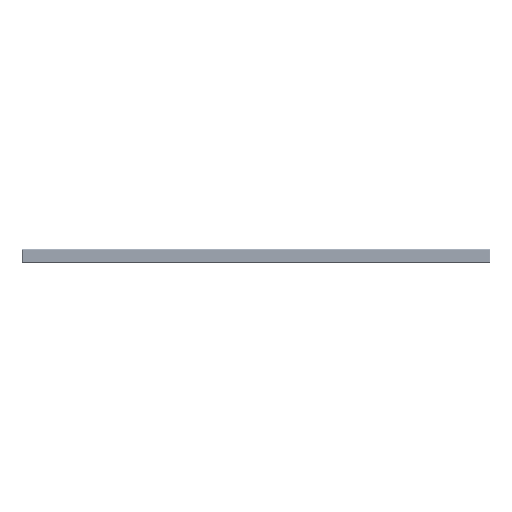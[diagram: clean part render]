
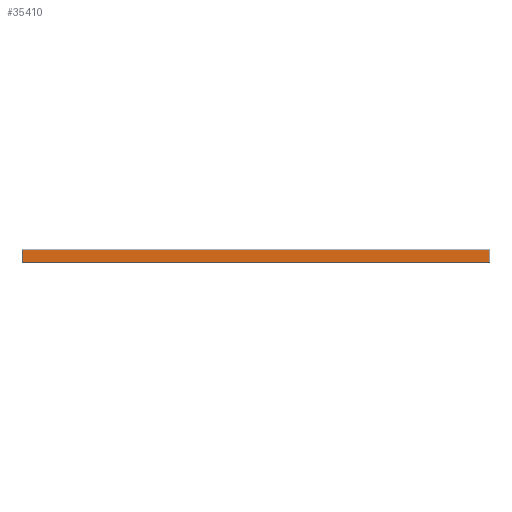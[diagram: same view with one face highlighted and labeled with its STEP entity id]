
A CAD part, front view. The second image highlights one B-rep face of the part: STEP entity #35410.
In plain terms, the highlighted planar face has unit normal (0, -1, 0).
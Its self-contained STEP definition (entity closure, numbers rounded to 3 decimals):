
#2288=LINE('',#209192,#14304);
#2289=LINE('',#209195,#14305);
#2290=LINE('',#209197,#14306);
#2291=LINE('',#209199,#14307);
#14304=VECTOR('',#165450,1.);
#14305=VECTOR('',#165451,1.);
#14306=VECTOR('',#165452,1.);
#14307=VECTOR('',#165453,1.);
#35410=ADVANCED_FACE('',(#46284),#41588,.T.);
#41588=PLANE('',#144863);
#46284=FACE_OUTER_BOUND('',#53340,.T.);
#53340=EDGE_LOOP('',(#69513,#69514,#69515,#69516));
#69513=ORIENTED_EDGE('',*,*,#117843,.T.);
#69514=ORIENTED_EDGE('',*,*,#117844,.T.);
#69515=ORIENTED_EDGE('',*,*,#117845,.T.);
#69516=ORIENTED_EDGE('',*,*,#117846,.T.);
#102920=VERTEX_POINT('',#209193);
#102921=VERTEX_POINT('',#209194);
#102922=VERTEX_POINT('',#209196);
#102923=VERTEX_POINT('',#209198);
#117843=EDGE_CURVE('',#102920,#102921,#2288,.T.);
#117844=EDGE_CURVE('',#102921,#102922,#2289,.T.);
#117845=EDGE_CURVE('',#102922,#102923,#2290,.T.);
#117846=EDGE_CURVE('',#102923,#102920,#2291,.T.);
#144863=AXIS2_PLACEMENT_3D('',#209200,#165454,#165455);
#165450=DIRECTION('',(-1.,0.,0.));
#165451=DIRECTION('',(0.,0.,-1.));
#165452=DIRECTION('',(1.,0.,0.));
#165453=DIRECTION('',(0.,0.,1.));
#165454=DIRECTION('',(0.,-1.,0.));
#165455=DIRECTION('',(0.,0.,-1.));
#209192=CARTESIAN_POINT('',(137.335,0.,7.575));
#209193=CARTESIAN_POINT('',(274.27,0.,7.575));
#209194=CARTESIAN_POINT('',(0.4,0.,7.575));
#209195=CARTESIAN_POINT('',(0.4,0.,0.));
#209196=CARTESIAN_POINT('',(0.4,0.,0.425));
#209197=CARTESIAN_POINT('',(137.335,0.,0.425));
#209198=CARTESIAN_POINT('',(274.27,0.,0.425));
#209199=CARTESIAN_POINT('',(274.27,0.,0.));
#209200=CARTESIAN_POINT('',(137.335,0.,0.));
